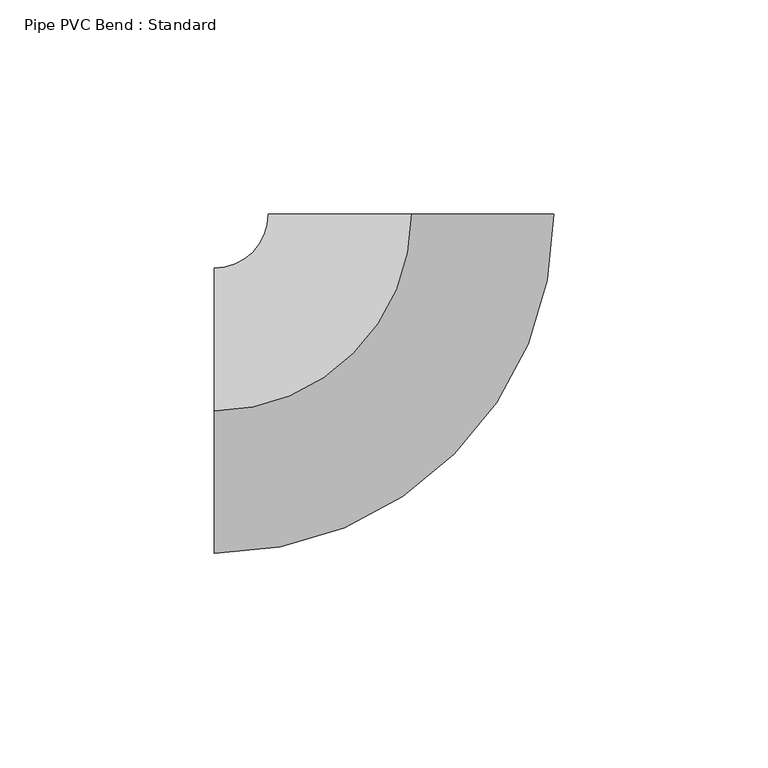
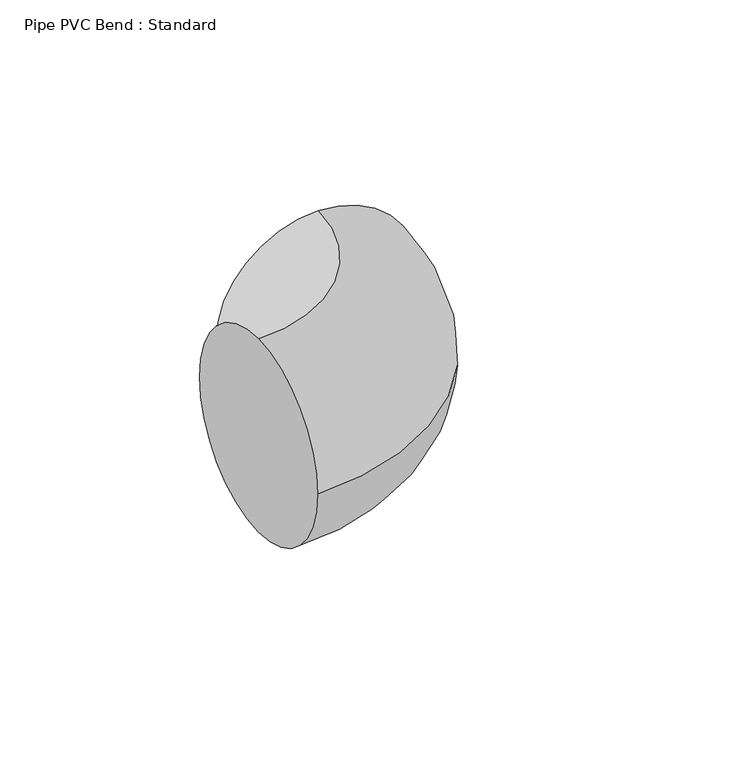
"""IFC4 building model written with IfcOpenShell, lengths in millimetres: pipe fitting geometry, Pipe PVC Bend : Standard."""

from ifc_helpers import new_model, si_unit, point, frame, origin, place, context, project, spatial, circle_curve, ellipse_curve, trimmed, source, transform, mapped, element, save
from ifc_brep_helpers import plane_surface, revolved_surface, advanced_brep


def pipe_pvc_bend_standard_dba494f2(model_context):
    return source(origin(), model_context, "Body", "AdvancedBrep", [
        advanced_brep(
        [(-46.0325054, 0.0, 33.3375), (-46.0325054, 33.3375, 0.0), (-46.0325054, 0.0, -33.3375), (-46.0325054, -33.3375, 0.0), (0.0049943, 46.0325052, 33.3375), (33.3424941, 46.0288882, 0.0), (0.0049943, 46.0325052, -33.3375), (-33.3325055, 46.0361221, 0.0)],
        [
            (0, 1, circle_curve(frame((-46.0325054, 0.0, 0.0), z_axis=(-1.0, 0.0, 0.0), x_axis=(0.0, 1.0, 0.0)), 33.3375)),
            (1, 2, circle_curve(frame((-46.0325054, 0.0, 0.0), z_axis=(-1.0, 0.0, 0.0), x_axis=(0.0, 1.0, 0.0)), 33.3375)),
            (2, 3, circle_curve(frame((-46.0325054, 0.0, 0.0), z_axis=(-1.0, 0.0, 0.0), x_axis=(0.0, 1.0, 0.0)), 33.3375)),
            (3, 0, circle_curve(frame((-46.0325054, 0.0, 0.0), z_axis=(-1.0, 0.0, 0.0), x_axis=(0.0, 1.0, 0.0)), 33.3375)),
            (4, 5, circle_curve(frame((0.0049943, 46.0325052, 0.0), z_axis=(0.0001084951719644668, 0.9999999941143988, 0.0), x_axis=(-0.9999999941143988, 0.0001084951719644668, 0.0)), 33.3375)),
            (5, 6, circle_curve(frame((0.0049943, 46.0325052, 0.0), z_axis=(0.0001084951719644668, 0.9999999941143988, 0.0), x_axis=(-0.9999999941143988, 0.0001084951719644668, 0.0)), 33.3375)),
            (6, 7, circle_curve(frame((0.0049943, 46.0325052, 0.0), z_axis=(0.0001084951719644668, 0.9999999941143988, 0.0), x_axis=(-0.9999999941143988, 0.0001084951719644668, 0.0)), 33.3375)),
            (7, 4, circle_curve(frame((0.0049943, 46.0325052, 0.0), z_axis=(0.0001084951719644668, 0.9999999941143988, 0.0), x_axis=(-0.9999999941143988, 0.0001084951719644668, 0.0)), 33.3375)),
            (7, 1, circle_curve(frame((-46.0325054, 46.0375, 0.0), z_axis=(0.0, 0.0, -1.0), x_axis=(0.0, -1.0, 0.0)), 12.7)),
            (0, 4, circle_curve(frame((-46.0325054, 46.0375, 33.3375), z_axis=(0.0, 0.0, 1.0), x_axis=(0.0, -1.0, 0.0)), 46.0375)),
            (6, 2, circle_curve(frame((-46.0325054, 46.0375, -33.3375), z_axis=(0.0, 0.0, -1.0), x_axis=(0.0, -1.0, 0.0)), 46.0375)),
            (5, 3, circle_curve(frame((-46.0325054, 46.0375, 0.0), z_axis=(0.0, 0.0, -1.0), x_axis=(0.0, -1.0, 0.0)), 79.375)),
        ],
        [
            plane_surface(frame((-46.0325054, 0.0, 0.0), z_axis=(-1.0, 0.0, 0.0), x_axis=(0.0, 0.0, 1.0))),
            plane_surface(frame((0.0049943, 46.0325052, 0.0), z_axis=(0.00010849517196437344, 0.9999999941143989, 0.0), x_axis=(0.0, 0.0, 1.0))),
            revolved_surface(trimmed(ellipse_curve(frame((-46.0325054, 0.0, 0.0), z_axis=(-1.0, 0.0, 0.0), x_axis=(0.0, 1.0, 0.0)), 33.3375, 33.3375), [point((-46.0325054, 0.0, 33.3375))], [point((-46.0325054, 33.3375, 0.0))], True, "CARTESIAN"), (-46.0325054, 46.0375, 0.0), (0.0, 0.0, 1.0)),
            revolved_surface(trimmed(ellipse_curve(frame((-46.0325054, 0.0, 0.0), z_axis=(-1.0, 0.0, 0.0), x_axis=(0.0, 1.0, 0.0)), 33.3375, 33.3375), [point((-46.0325054, 33.3375, 0.0))], [point((-46.0325054, 0.0, -33.3375))], True, "CARTESIAN"), (-46.0325054, 46.0375, 0.0), (0.0, 0.0, 1.0)),
            revolved_surface(trimmed(ellipse_curve(frame((-46.0325054, 0.0, 0.0), z_axis=(-1.0, 0.0, 0.0), x_axis=(0.0, 1.0, 0.0)), 33.3375, 33.3375), [point((-46.0325054, 0.0, -33.3375))], [point((-46.0325054, -33.3375, 0.0))], True, "CARTESIAN"), (-46.0325054, 46.0375, 0.0), (0.0, 0.0, 1.0)),
            revolved_surface(trimmed(ellipse_curve(frame((-46.0325054, 0.0, 0.0), z_axis=(-1.0, 0.0, 0.0), x_axis=(0.0, 1.0, 0.0)), 33.3375, 33.3375), [point((-46.0325054, -33.3375, 0.0))], [point((-46.0325054, 0.0, 33.3375))], True, "CARTESIAN"), (-46.0325054, 46.0375, 0.0), (0.0, 0.0, 1.0)),
        ],
        [
            (0, [[1, 2, 3, 4]]),
            (1, [[5, 6, 7, 8]]),
            (2, [[9, -1, 10, -8]]),
            (3, [[11, -2, -9, -7]]),
            (4, [[12, -3, -11, -6]]),
            (5, [[-10, -4, -12, -5]]),
        ],
    ),
        advanced_brep(
        [(-46.0325054, 0.0, 33.3375), (-46.0325054, 33.3375, 0.0), (-46.0325054, 0.0, -33.3375), (-46.0325054, -33.3375, 0.0), (0.0049943, 46.0325052, 33.3375), (33.3424941, 46.0288882, 0.0), (0.0049943, 46.0325052, -33.3375), (-33.3325055, 46.0361221, 0.0)],
        [
            (0, 1, circle_curve(frame((-46.0325054, 0.0, 0.0), z_axis=(-1.0, 0.0, 0.0), x_axis=(0.0, 1.0, 0.0)), 33.3375)),
            (1, 2, circle_curve(frame((-46.0325054, 0.0, 0.0), z_axis=(-1.0, 0.0, 0.0), x_axis=(0.0, 1.0, 0.0)), 33.3375)),
            (2, 3, circle_curve(frame((-46.0325054, 0.0, 0.0), z_axis=(-1.0, 0.0, 0.0), x_axis=(0.0, 1.0, 0.0)), 33.3375)),
            (3, 0, circle_curve(frame((-46.0325054, 0.0, 0.0), z_axis=(-1.0, 0.0, 0.0), x_axis=(0.0, 1.0, 0.0)), 33.3375)),
            (4, 5, circle_curve(frame((0.0049943, 46.0325052, 0.0), z_axis=(0.0001084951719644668, 0.9999999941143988, 0.0), x_axis=(-0.9999999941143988, 0.0001084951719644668, 0.0)), 33.3375)),
            (5, 6, circle_curve(frame((0.0049943, 46.0325052, 0.0), z_axis=(0.0001084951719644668, 0.9999999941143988, 0.0), x_axis=(-0.9999999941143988, 0.0001084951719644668, 0.0)), 33.3375)),
            (6, 7, circle_curve(frame((0.0049943, 46.0325052, 0.0), z_axis=(0.0001084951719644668, 0.9999999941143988, 0.0), x_axis=(-0.9999999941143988, 0.0001084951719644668, 0.0)), 33.3375)),
            (7, 4, circle_curve(frame((0.0049943, 46.0325052, 0.0), z_axis=(0.0001084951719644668, 0.9999999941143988, 0.0), x_axis=(-0.9999999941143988, 0.0001084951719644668, 0.0)), 33.3375)),
            (7, 1, circle_curve(frame((-46.0325054, 46.0375, 0.0), z_axis=(0.0, 0.0, -1.0), x_axis=(0.0, -1.0, 0.0)), 12.7)),
            (0, 4, circle_curve(frame((-46.0325054, 46.0375, 33.3375), z_axis=(0.0, 0.0, 1.0), x_axis=(0.0, -1.0, 0.0)), 46.0375)),
            (6, 2, circle_curve(frame((-46.0325054, 46.0375, -33.3375), z_axis=(0.0, 0.0, -1.0), x_axis=(0.0, -1.0, 0.0)), 46.0375)),
            (5, 3, circle_curve(frame((-46.0325054, 46.0375, 0.0), z_axis=(0.0, 0.0, -1.0), x_axis=(0.0, -1.0, 0.0)), 79.375)),
        ],
        [
            plane_surface(frame((-46.0325054, 0.0, 0.0), z_axis=(-1.0, 0.0, 0.0), x_axis=(0.0, 0.0, 1.0))),
            plane_surface(frame((0.0049943, 46.0325052, 0.0), z_axis=(0.00010849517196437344, 0.9999999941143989, 0.0), x_axis=(0.0, 0.0, 1.0))),
            revolved_surface(trimmed(ellipse_curve(frame((-46.0325054, 0.0, 0.0), z_axis=(-1.0, 0.0, 0.0), x_axis=(0.0, 1.0, 0.0)), 33.3375, 33.3375), [point((-46.0325054, 0.0, 33.3375))], [point((-46.0325054, 33.3375, 0.0))], True, "CARTESIAN"), (-46.0325054, 46.0375, 0.0), (0.0, 0.0, 1.0)),
            revolved_surface(trimmed(ellipse_curve(frame((-46.0325054, 0.0, 0.0), z_axis=(-1.0, 0.0, 0.0), x_axis=(0.0, 1.0, 0.0)), 33.3375, 33.3375), [point((-46.0325054, 33.3375, 0.0))], [point((-46.0325054, 0.0, -33.3375))], True, "CARTESIAN"), (-46.0325054, 46.0375, 0.0), (0.0, 0.0, 1.0)),
            revolved_surface(trimmed(ellipse_curve(frame((-46.0325054, 0.0, 0.0), z_axis=(-1.0, 0.0, 0.0), x_axis=(0.0, 1.0, 0.0)), 33.3375, 33.3375), [point((-46.0325054, 0.0, -33.3375))], [point((-46.0325054, -33.3375, 0.0))], True, "CARTESIAN"), (-46.0325054, 46.0375, 0.0), (0.0, 0.0, 1.0)),
            revolved_surface(trimmed(ellipse_curve(frame((-46.0325054, 0.0, 0.0), z_axis=(-1.0, 0.0, 0.0), x_axis=(0.0, 1.0, 0.0)), 33.3375, 33.3375), [point((-46.0325054, -33.3375, 0.0))], [point((-46.0325054, 0.0, 33.3375))], True, "CARTESIAN"), (-46.0325054, 46.0375, 0.0), (0.0, 0.0, 1.0)),
        ],
        [
            (0, [[1, 2, 3, 4]]),
            (1, [[5, 6, 7, 8]]),
            (2, [[9, -1, 10, -8]]),
            (3, [[11, -2, -9, -7]]),
            (4, [[12, -3, -11, -6]]),
            (5, [[-10, -4, -12, -5]]),
        ],
    ),
    ])


if __name__ == "__main__":
    model = new_model("IFC4")
    model_context = context("Model", 3, world=origin())
    ifc_project = project(units=[si_unit("LENGTHUNIT", "METRE", prefix="MILLI")], contexts=[model_context])
    site = spatial("IfcSite", under=ifc_project)
    building = spatial("IfcBuilding", under=site)
    placement = place(None, origin())
    pipe_pvc_bend_standard_shape = pipe_pvc_bend_standard_dba494f2(model_context)
    element("IfcPipeFitting", 1, ObjectType="Pipe PVC Bend : Standard", at=placement, inside=building, context=model_context, shape_type="MappedRepresentation", body=[
        mapped(pipe_pvc_bend_standard_shape, transform((0.0, 0.0, 0.0), x_axis=(1.0, 0.0, 0.0), y_axis=(0.0, 1.0, 0.0), z_axis=(0.0, 0.0, 1.0))),
    ])
    save(model, "model.ifc")
